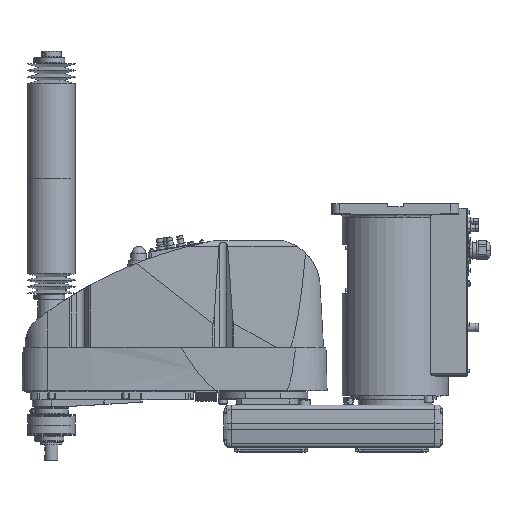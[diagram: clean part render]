
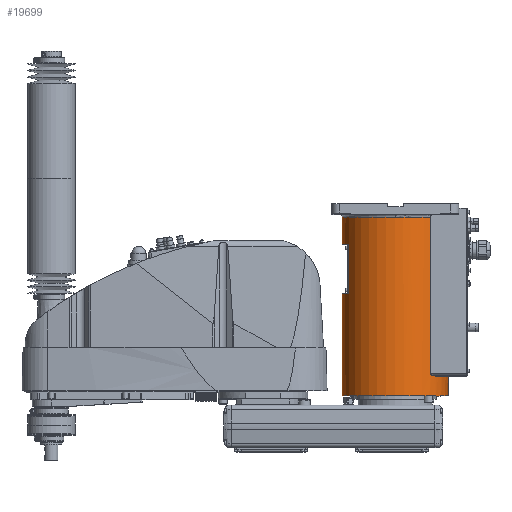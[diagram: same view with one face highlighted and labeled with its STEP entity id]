
A CAD part, top view. The second image highlights one B-rep face of the part: STEP entity #19699.
In plain terms, the highlighted cylindrical face has radius 100 mm (diameter 200 mm), a partial arc.
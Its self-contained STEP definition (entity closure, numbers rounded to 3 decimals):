
#11499 = VERTEX_POINT( '', #33488 );
#13731 = VERTEX_POINT( '', #35986 );
#14913 = VERTEX_POINT( '', #37308 );
#15027 = VERTEX_POINT( '', #37435 );
#15787 = VERTEX_POINT( '', #38260 );
#16015 = EDGE_CURVE( '', #16423, #29425, #38520, .T. );
#16127 = VERTEX_POINT( '', #38645 );
#16323 = VERTEX_POINT( '', #38857 );
#16423 = VERTEX_POINT( '', #38968 );
#16827 = VERTEX_POINT( '', #39420 );
#17159 = EDGE_CURVE( '', #16827, #18911, #39814, .T. );
#17311 = EDGE_CURVE( '', #13731, #16423, #39988, .T. );
#18911 = VERTEX_POINT( '', #41769 );
#19423 = EDGE_CURVE( '', #29425, #25597, #42348, .T. );
#19699 = ADVANCED_FACE( '', ( #42663 ), #42664, .T. );
#20649 = EDGE_CURVE( '', #16827, #31263, #43736, .T. );
#21955 = EDGE_CURVE( '', #30343, #16127, #45186, .T. );
#23109 = EDGE_CURVE( '', #23251, #28283, #46455, .T. );
#23251 = VERTEX_POINT( '', #46615 );
#25597 = VERTEX_POINT( '', #49207 );
#25621 = EDGE_CURVE( '', #11499, #14913, #49233, .T. );
#27525 = EDGE_CURVE( '', #30343, #11499, #51375, .T. );
#27923 = EDGE_CURVE( '', #16127, #23251, #51805, .T. );
#28283 = VERTEX_POINT( '', #52204 );
#29425 = VERTEX_POINT( '', #53456 );
#29761 = EDGE_CURVE( '', #15027, #15787, #53851, .T. );
#29767 = EDGE_CURVE( '', #14913, #15027, #53858, .T. );
#30343 = VERTEX_POINT( '', #54485 );
#31191 = EDGE_CURVE( '', #15787, #13731, #55428, .T. );
#31243 = EDGE_CURVE( '', #25597, #18911, #55485, .T. );
#31263 = VERTEX_POINT( '', #55507 );
#31547 = EDGE_CURVE( '', #16323, #28283, #55828, .T. );
#32139 = EDGE_CURVE( '', #31263, #16323, #56488, .T. );
#33488 = CARTESIAN_POINT( '', ( 89.303, 64., 45. ) );
#35986 = CARTESIAN_POINT( '', ( 70.42, 64., 71. ) );
#37308 = CARTESIAN_POINT( '', ( 89.303, 62., 45. ) );
#37435 = CARTESIAN_POINT( '', ( 75.993, 62., 65. ) );
#38260 = CARTESIAN_POINT( '', ( 75.993, 64., 65. ) );
#38520 = LINE( '', #65547, #65548 );
#38645 = CARTESIAN_POINT( '', ( 100., 25., 0. ) );
#38857 = CARTESIAN_POINT( '', ( -88., 218.3, 47.497 ) );
#38968 = CARTESIAN_POINT( '', ( 66.144, 68., 75. ) );
#39420 = CARTESIAN_POINT( '', ( -100., 311.3, 0. ) );
#39814 = LINE( '', #67383, #67384 );
#39988 = B_SPLINE_CURVE_WITH_KNOTS( '', 3, ( #67613, #67614, #67615, #67616, #67617, #67618, #67619, #67620, #67621, #67622, #67623, #67624, #67625, #67626, #67627, #67628, #67629, #67630 ), .UNSPECIFIED., .F., .F., ( 4, 2, 2, 2, 2, 2, 2, 2, 4 ), ( -7.48, -6.36, -5.24, -4.12, -3., -2.25, -1.5, -0.75, 0. ), .UNSPECIFIED. );
#41769 = CARTESIAN_POINT( '', ( -100., 363., 0. ) );
#42348 = CIRCLE( '', #71001, 100. );
#42663 = FACE_OUTER_BOUND( '', #71487, .T. );
#42664 = CYLINDRICAL_SURFACE( '', #71488, 100. );
#43736 = CIRCLE( '', #72968, 100. );
#45186 = LINE( '', #75066, #75067 );
#46455 = LINE( '', #76957, #76958 );
#46615 = CARTESIAN_POINT( '', ( -100., 25., 0. ) );
#49207 = CARTESIAN_POINT( '', ( 0., 363., 100. ) );
#49233 = LINE( '', #81191, #81192 );
#51375 = CIRCLE( '', #84389, 100. );
#51805 = CIRCLE( '', #85043, 100. );
#52204 = CARTESIAN_POINT( '', ( -100., 218.3, 0. ) );
#53456 = CARTESIAN_POINT( '', ( 66.144, 363., 75. ) );
#53851 = LINE( '', #87968, #87969 );
#53858 = CIRCLE( '', #87979, 100. );
#54485 = CARTESIAN_POINT( '', ( 100., 64., 0. ) );
#55428 = CIRCLE( '', #90372, 100. );
#55485 = CIRCLE( '', #90466, 100. );
#55507 = CARTESIAN_POINT( '', ( -88., 311.3, 47.497 ) );
#55828 = CIRCLE( '', #90985, 100. );
#56488 = LINE( '', #91900, #91901 );
#65547 = CARTESIAN_POINT( '', ( 66.144, 215.5, 75. ) );
#65548 = VECTOR( '', #99678, 1. );
#67383 = CARTESIAN_POINT( '', ( -100., 194., 0. ) );
#67384 = VECTOR( '', #101256, 1. );
#67613 = CARTESIAN_POINT( '', ( 70.42, 64., 71. ) );
#67614 = CARTESIAN_POINT( '', ( 70.155, 64., 71.263 ) );
#67615 = CARTESIAN_POINT( '', ( 69.877, 64.026, 71.535 ) );
#67616 = CARTESIAN_POINT( '', ( 69.316, 64.139, 72.08 ) );
#67617 = CARTESIAN_POINT( '', ( 69.031, 64.224, 72.352 ) );
#67618 = CARTESIAN_POINT( '', ( 68.475, 64.457, 72.879 ) );
#67619 = CARTESIAN_POINT( '', ( 68.203, 64.604, 73.134 ) );
#67620 = CARTESIAN_POINT( '', ( 67.688, 64.954, 73.61 ) );
#67621 = CARTESIAN_POINT( '', ( 67.446, 65.158, 73.831 ) );
#67622 = CARTESIAN_POINT( '', ( 67.082, 65.542, 74.162 ) );
#67623 = CARTESIAN_POINT( '', ( 66.938, 65.716, 74.292 ) );
#67624 = CARTESIAN_POINT( '', ( 66.674, 66.103, 74.529 ) );
#67625 = CARTESIAN_POINT( '', ( 66.555, 66.315, 74.636 ) );
#67626 = CARTESIAN_POINT( '', ( 66.356, 66.766, 74.812 ) );
#67627 = CARTESIAN_POINT( '', ( 66.277, 67.005, 74.882 ) );
#67628 = CARTESIAN_POINT( '', ( 66.171, 67.497, 74.976 ) );
#67629 = CARTESIAN_POINT( '', ( 66.144, 67.75, 75. ) );
#67630 = CARTESIAN_POINT( '', ( 66.144, 68., 75. ) );
#71001 = AXIS2_PLACEMENT_3D( '', #104274, #104275, #104276 );
#71487 = EDGE_LOOP( '', ( #104694, #104695, #104696, #104697, #104698, #104699, #104700, #104701, #104702, #104703, #104704, #104705, #104706, #104707, #104708, #104709 ) );
#71488 = AXIS2_PLACEMENT_3D( '', #104710, #104711, #104712 );
#72968 = AXIS2_PLACEMENT_3D( '', #105941, #105942, #105943 );
#75066 = CARTESIAN_POINT( '', ( 100., 194., 0. ) );
#75067 = VECTOR( '', #107589, 1. );
#76957 = CARTESIAN_POINT( '', ( -100., 194., 0. ) );
#76958 = VECTOR( '', #108976, 1. );
#81191 = CARTESIAN_POINT( '', ( 89.303, 63., 45. ) );
#81192 = VECTOR( '', #112113, 1. );
#84389 = AXIS2_PLACEMENT_3D( '', #114695, #114696, #114697 );
#85043 = AXIS2_PLACEMENT_3D( '', #115129, #115130, #115131 );
#87968 = CARTESIAN_POINT( '', ( 75.993, 63., 65. ) );
#87969 = VECTOR( '', #117280, 1. );
#87979 = AXIS2_PLACEMENT_3D( '', #117290, #117291, #117292 );
#90372 = AXIS2_PLACEMENT_3D( '', #119023, #119024, #119025 );
#90466 = AXIS2_PLACEMENT_3D( '', #119083, #119084, #119085 );
#90985 = AXIS2_PLACEMENT_3D( '', #119455, #119456, #119457 );
#91900 = CARTESIAN_POINT( '', ( -88., 264.8, 47.497 ) );
#91901 = VECTOR( '', #120243, 1. );
#99678 = DIRECTION( '', ( 0., 1., 0. ) );
#101256 = DIRECTION( '', ( 0., 1., 0. ) );
#104274 = CARTESIAN_POINT( '', ( 0., 363., 0. ) );
#104275 = DIRECTION( '', ( 0., -1., 0. ) );
#104276 = DIRECTION( '', ( 1., 0., 0. ) );
#104694 = ORIENTED_EDGE( '', *, *, #21955, .F. );
#104695 = ORIENTED_EDGE( '', *, *, #27525, .T. );
#104696 = ORIENTED_EDGE( '', *, *, #25621, .T. );
#104697 = ORIENTED_EDGE( '', *, *, #29767, .T. );
#104698 = ORIENTED_EDGE( '', *, *, #29761, .T. );
#104699 = ORIENTED_EDGE( '', *, *, #31191, .T. );
#104700 = ORIENTED_EDGE( '', *, *, #17311, .T. );
#104701 = ORIENTED_EDGE( '', *, *, #16015, .T. );
#104702 = ORIENTED_EDGE( '', *, *, #19423, .T. );
#104703 = ORIENTED_EDGE( '', *, *, #31243, .T. );
#104704 = ORIENTED_EDGE( '', *, *, #17159, .F. );
#104705 = ORIENTED_EDGE( '', *, *, #20649, .T. );
#104706 = ORIENTED_EDGE( '', *, *, #32139, .T. );
#104707 = ORIENTED_EDGE( '', *, *, #31547, .T. );
#104708 = ORIENTED_EDGE( '', *, *, #23109, .F. );
#104709 = ORIENTED_EDGE( '', *, *, #27923, .F. );
#104710 = CARTESIAN_POINT( '', ( 0., 194., 0. ) );
#104711 = DIRECTION( '', ( 0., 1., 0. ) );
#104712 = DIRECTION( '', ( 1., 0., 0. ) );
#105941 = CARTESIAN_POINT( '', ( 0., 311.3, 0. ) );
#105942 = DIRECTION( '', ( 0., 1., 0. ) );
#105943 = DIRECTION( '', ( 1., 0., 0. ) );
#107589 = DIRECTION( '', ( 0., -1., 0. ) );
#108976 = DIRECTION( '', ( 0., 1., 0. ) );
#112113 = DIRECTION( '', ( 0., -1., 0. ) );
#114695 = CARTESIAN_POINT( '', ( 0., 64., 0. ) );
#114696 = DIRECTION( '', ( 0., -1., 0. ) );
#114697 = DIRECTION( '', ( 1., 0., 0. ) );
#115129 = CARTESIAN_POINT( '', ( 0., 25., 0. ) );
#115130 = DIRECTION( '', ( 0., -1., 0. ) );
#115131 = DIRECTION( '', ( 1., 0., 0. ) );
#117280 = DIRECTION( '', ( 0., 1., 0. ) );
#117290 = CARTESIAN_POINT( '', ( 0., 62., 0. ) );
#117291 = DIRECTION( '', ( 0., -1., 0. ) );
#117292 = DIRECTION( '', ( 1., 0., 0. ) );
#119023 = CARTESIAN_POINT( '', ( 0., 64., 0. ) );
#119024 = DIRECTION( '', ( 0., -1., 0. ) );
#119025 = DIRECTION( '', ( 1., 0., 0. ) );
#119083 = CARTESIAN_POINT( '', ( 0., 363., 0. ) );
#119084 = DIRECTION( '', ( 0., -1., 0. ) );
#119085 = DIRECTION( '', ( 1., 0., 0. ) );
#119455 = CARTESIAN_POINT( '', ( 0., 218.3, 0. ) );
#119456 = DIRECTION( '', ( 0., -1., 0. ) );
#119457 = DIRECTION( '', ( 1., 0., 0. ) );
#120243 = DIRECTION( '', ( 0., -1., 0. ) );
